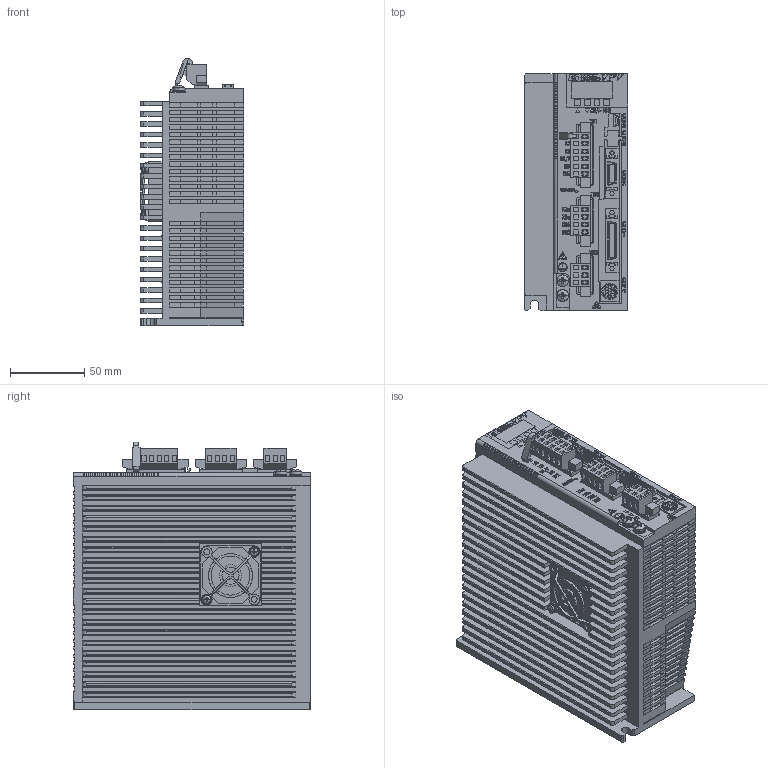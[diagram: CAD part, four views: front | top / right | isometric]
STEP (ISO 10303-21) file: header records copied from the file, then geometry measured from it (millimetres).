
FILE_DESCRIPTION (( 'STEP AP203' ), '1' );
FILE_NAME ('NCR-VA_Series(801)#SX-05490.STEP', '2026-05-27T08:28:29', ( '' ), ( '' ), 'SwSTEP 2.0', 'SolidWorks 2024', '' );
FILE_SCHEMA (( 'CONFIG_CONTROL_DESIGN' ));
Products named in the file (1): NCR-VA_Series(801)#SX-05490
Bounding box: 70 x 160 x 180.47 mm (x, y, z)
Volume: 1515333.1 mm3; surface area: 214431.7 mm2
Topology: 5 solids, 7 shells, 4410 faces, 12283 edges, 8139 vertices
Faces by surface type: plane 3450, cylinder 482, bspline 420, cone 34, torus 16, sphere 8
Entity records: 160633 total; most frequent: CARTESIAN_POINT 49426, ORIENTED_EDGE 24550, DIRECTION 20417, EDGE_CURVE 12275, LINE 10135, VECTOR 10135, VERTEX_POINT 8139, AXIS2_PLACEMENT_3D 5141
